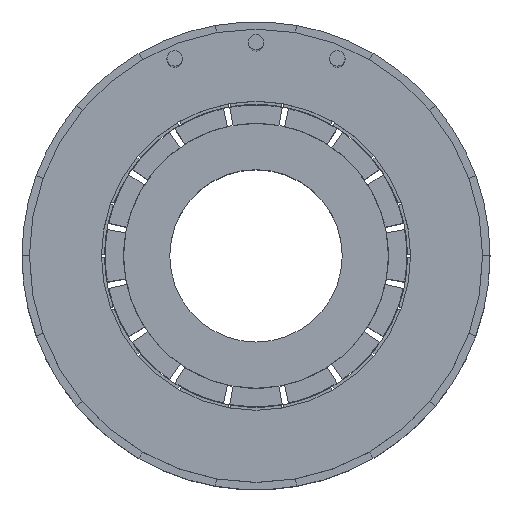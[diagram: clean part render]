
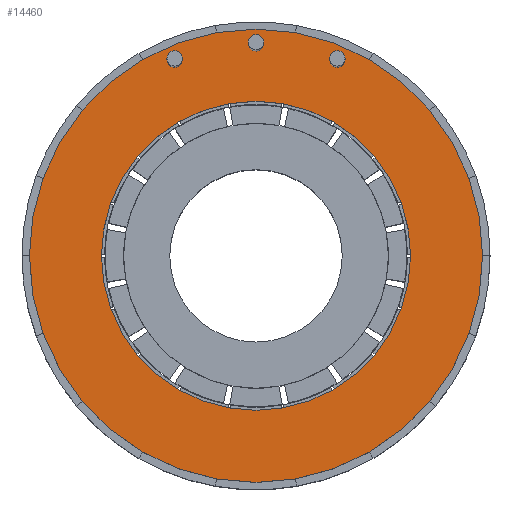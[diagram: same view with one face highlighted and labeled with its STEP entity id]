
A CAD part, top view. The second image highlights one B-rep face of the part: STEP entity #14460.
In plain terms, the highlighted planar face has unit normal (0, 0, 1).
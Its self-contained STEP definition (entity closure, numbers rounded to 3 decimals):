
#101 = EDGE_CURVE ( 'NONE', #9852, #5813, #6419, .T. ) ;
#212 = DIRECTION ( 'NONE',  ( 0., 0., 1. ) ) ;
#241 = CARTESIAN_POINT ( 'NONE',  ( 12.283, 0.787, 48.5 ) ) ;
#758 = EDGE_CURVE ( 'NONE', #12773, #1429, #15519, .T. ) ;
#987 = CARTESIAN_POINT ( 'NONE',  ( -15.377, 0.787, 48.5 ) ) ;
#1022 = ORIENTED_EDGE ( 'NONE', *, *, #12503, .F. ) ;
#1080 = FACE_BOUND ( 'NONE', #15876, .T. ) ;
#1097 = CIRCLE ( 'NONE', #13115, 1.255 ) ;
#1147 = DIRECTION ( 'NONE',  ( 0., 0., 1. ) ) ;
#1429 = VERTEX_POINT ( 'NONE', #11982 ) ;
#1520 = VERTEX_POINT ( 'NONE', #14482 ) ;
#2072 = ORIENTED_EDGE ( 'NONE', *, *, #11374, .F. ) ;
#2263 = DIRECTION ( 'NONE',  ( 1., 0., 0. ) ) ;
#2362 = FACE_BOUND ( 'NONE', #7556, .T. ) ;
#2609 = DIRECTION ( 'NONE',  ( 0., 0., 1. ) ) ;
#2625 = DIRECTION ( 'NONE',  ( 1., 0., 0. ) ) ;
#3129 = AXIS2_PLACEMENT_3D ( 'NONE', #3609, #7461, #16370 ) ;
#3403 = DIRECTION ( 'NONE',  ( 1., 0., 0. ) ) ;
#3473 = DIRECTION ( 'NONE',  ( 1., 0., 0. ) ) ;
#3609 = CARTESIAN_POINT ( 'NONE',  ( -2.174, 3.413, 48.5 ) ) ;
#3643 = VERTEX_POINT ( 'NONE', #11488 ) ;
#3757 = AXIS2_PLACEMENT_3D ( 'NONE', #8086, #212, #9370 ) ;
#4102 = DIRECTION ( 'NONE',  ( 1., 0., 0. ) ) ;
#4443 = EDGE_LOOP ( 'NONE', ( #16882, #2072 ) ) ;
#4706 = EDGE_CURVE ( 'NONE', #3643, #8893, #5066, .T. ) ;
#5066 = CIRCLE ( 'NONE', #3129, 1.255 ) ;
#5123 = DIRECTION ( 'NONE',  ( 0., 0., 1. ) ) ;
#5293 = DIRECTION ( 'NONE',  ( 1., 0., 0. ) ) ;
#5813 = VERTEX_POINT ( 'NONE', #12254 ) ;
#5886 = ORIENTED_EDGE ( 'NONE', *, *, #4706, .F. ) ;
#5934 = CARTESIAN_POINT ( 'NONE',  ( 11.028, 0.787, 48.5 ) ) ;
#6151 = AXIS2_PLACEMENT_3D ( 'NONE', #987, #8610, #3473 ) ;
#6316 = FACE_OUTER_BOUND ( 'NONE', #15944, .T. ) ;
#6419 = CIRCLE ( 'NONE', #9970, 25.1 ) ;
#6897 = CARTESIAN_POINT ( 'NONE',  ( -27.274, -31.087, 48.5 ) ) ;
#6914 = VERTEX_POINT ( 'NONE', #241 ) ;
#7029 = EDGE_CURVE ( 'NONE', #12350, #1520, #11605, .T. ) ;
#7080 = CARTESIAN_POINT ( 'NONE',  ( -16.632, 0.787, 48.5 ) ) ;
#7461 = DIRECTION ( 'NONE',  ( 0., 0., 1. ) ) ;
#7556 = EDGE_LOOP ( 'NONE', ( #10445, #13062 ) ) ;
#7593 = FACE_BOUND ( 'NONE', #16572, .T. ) ;
#8086 = CARTESIAN_POINT ( 'NONE',  ( -2.174, -31.087, 48.5 ) ) ;
#8441 = ORIENTED_EDGE ( 'NONE', *, *, #7029, .F. ) ;
#8610 = DIRECTION ( 'NONE',  ( 0., 0., 1. ) ) ;
#8893 = VERTEX_POINT ( 'NONE', #16908 ) ;
#9144 = AXIS2_PLACEMENT_3D ( 'NONE', #14170, #1147, #11836 ) ;
#9370 = DIRECTION ( 'NONE',  ( 1., 0., 0. ) ) ;
#9433 = AXIS2_PLACEMENT_3D ( 'NONE', #15997, #14384, #4102 ) ;
#9674 = EDGE_CURVE ( 'NONE', #8893, #3643, #14512, .T. ) ;
#9682 = DIRECTION ( 'NONE',  ( 0., 0., 1. ) ) ;
#9852 = VERTEX_POINT ( 'NONE', #6897 ) ;
#9970 = AXIS2_PLACEMENT_3D ( 'NONE', #13240, #12994, #5293 ) ;
#10091 = ORIENTED_EDGE ( 'NONE', *, *, #758, .T. ) ;
#10220 = DIRECTION ( 'NONE',  ( 0., 0., 1. ) ) ;
#10445 = ORIENTED_EDGE ( 'NONE', *, *, #101, .F. ) ;
#10760 = VERTEX_POINT ( 'NONE', #16510 ) ;
#11338 = CIRCLE ( 'NONE', #9144, 1.255 ) ;
#11374 = EDGE_CURVE ( 'NONE', #6914, #10760, #11338, .T. ) ;
#11453 = ORIENTED_EDGE ( 'NONE', *, *, #9674, .F. ) ;
#11488 = CARTESIAN_POINT ( 'NONE',  ( -0.919, 3.413, 48.5 ) ) ;
#11528 = PLANE ( 'NONE',  #16102 ) ;
#11605 = CIRCLE ( 'NONE', #11865, 1.255 ) ;
#11775 = EDGE_CURVE ( 'NONE', #1429, #12773, #16830, .T. ) ;
#11836 = DIRECTION ( 'NONE',  ( 1., 0., 0. ) ) ;
#11865 = AXIS2_PLACEMENT_3D ( 'NONE', #11880, #12047, #3403 ) ;
#11880 = CARTESIAN_POINT ( 'NONE',  ( -15.377, 0.787, 48.5 ) ) ;
#11982 = CARTESIAN_POINT ( 'NONE',  ( 34.626, -31.087, 48.5 ) ) ;
#12047 = DIRECTION ( 'NONE',  ( 0., 0., 1. ) ) ;
#12254 = CARTESIAN_POINT ( 'NONE',  ( 22.926, -31.087, 48.5 ) ) ;
#12350 = VERTEX_POINT ( 'NONE', #7080 ) ;
#12459 = EDGE_CURVE ( 'NONE', #5813, #9852, #12701, .T. ) ;
#12503 = EDGE_CURVE ( 'NONE', #1520, #12350, #16259, .T. ) ;
#12701 = CIRCLE ( 'NONE', #14075, 25.1 ) ;
#12773 = VERTEX_POINT ( 'NONE', #16041 ) ;
#12811 = FACE_BOUND ( 'NONE', #4443, .T. ) ;
#12894 = CARTESIAN_POINT ( 'NONE',  ( -2.174, -31.087, 48.5 ) ) ;
#12994 = DIRECTION ( 'NONE',  ( 0., 0., 1. ) ) ;
#13062 = ORIENTED_EDGE ( 'NONE', *, *, #12459, .F. ) ;
#13115 = AXIS2_PLACEMENT_3D ( 'NONE', #5934, #9682, #16635 ) ;
#13240 = CARTESIAN_POINT ( 'NONE',  ( -2.174, -31.087, 48.5 ) ) ;
#14075 = AXIS2_PLACEMENT_3D ( 'NONE', #15298, #10220, #2263 ) ;
#14170 = CARTESIAN_POINT ( 'NONE',  ( 11.028, 0.787, 48.5 ) ) ;
#14362 = CARTESIAN_POINT ( 'NONE',  ( -2.174, 3.413, 48.5 ) ) ;
#14384 = DIRECTION ( 'NONE',  ( 0., 0., 1. ) ) ;
#14460 = ADVANCED_FACE ( 'NONE', ( #2362, #7593, #12811, #1080, #6316 ), #11528, .T. ) ;
#14482 = CARTESIAN_POINT ( 'NONE',  ( -14.122, 0.787, 48.5 ) ) ;
#14512 = CIRCLE ( 'NONE', #15054, 1.255 ) ;
#15054 = AXIS2_PLACEMENT_3D ( 'NONE', #14362, #5123, #2625 ) ;
#15174 = EDGE_CURVE ( 'NONE', #10760, #6914, #1097, .T. ) ;
#15271 = ORIENTED_EDGE ( 'NONE', *, *, #11775, .T. ) ;
#15298 = CARTESIAN_POINT ( 'NONE',  ( -2.174, -31.087, 48.5 ) ) ;
#15467 = DIRECTION ( 'NONE',  ( 1., 0., 0. ) ) ;
#15519 = CIRCLE ( 'NONE', #3757, 36.8 ) ;
#15876 = EDGE_LOOP ( 'NONE', ( #8441, #1022 ) ) ;
#15944 = EDGE_LOOP ( 'NONE', ( #10091, #15271 ) ) ;
#15997 = CARTESIAN_POINT ( 'NONE',  ( -2.174, -31.087, 48.5 ) ) ;
#16041 = CARTESIAN_POINT ( 'NONE',  ( -38.974, -31.087, 48.5 ) ) ;
#16102 = AXIS2_PLACEMENT_3D ( 'NONE', #12894, #2609, #15467 ) ;
#16259 = CIRCLE ( 'NONE', #6151, 1.255 ) ;
#16370 = DIRECTION ( 'NONE',  ( 1., 0., 0. ) ) ;
#16510 = CARTESIAN_POINT ( 'NONE',  ( 9.773, 0.787, 48.5 ) ) ;
#16572 = EDGE_LOOP ( 'NONE', ( #11453, #5886 ) ) ;
#16635 = DIRECTION ( 'NONE',  ( 1., 0., 0. ) ) ;
#16830 = CIRCLE ( 'NONE', #9433, 36.8 ) ;
#16882 = ORIENTED_EDGE ( 'NONE', *, *, #15174, .F. ) ;
#16908 = CARTESIAN_POINT ( 'NONE',  ( -3.429, 3.413, 48.5 ) ) ;
